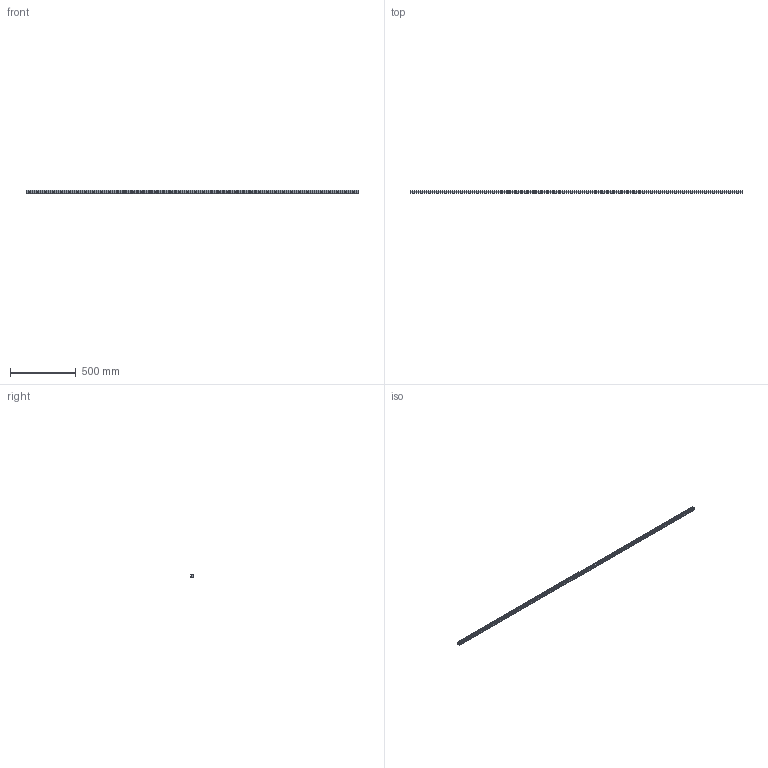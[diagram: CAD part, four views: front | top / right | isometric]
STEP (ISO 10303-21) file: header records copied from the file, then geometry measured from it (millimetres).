
FILE_DESCRIPTION (( 'STEP AP203' ), '1' );
FILE_NAME ('L1018.25R-2520.step', '2023-08-06T10:42:36', ( '' ), ( '' ), 'SwSTEP 2.0', 'SolidWorks 2019', '' );
FILE_SCHEMA (( 'CONFIG_CONTROL_DESIGN' ));
Length unit declared in the file: millimetre
Products named in the file (1): L1018.25R-2520
Bounding box: 2520 x 21.8 x 25 mm (x, y, z)
Volume: 1048038 mm3; surface area: 251081.1 mm2
Topology: 1 solids, 1 shells, 407 faces, 921 edges, 516 vertices
Faces by surface type: cylinder 171, cone 168, plane 68
Entity records: 10826 total; most frequent: DIRECTION 2079, CARTESIAN_POINT 1761, ORIENTED_EDGE 1674, EDGE_CURVE 837, AXIS2_PLACEMENT_3D 834, VERTEX_POINT 516, EDGE_LOOP 491, CIRCLE 426
